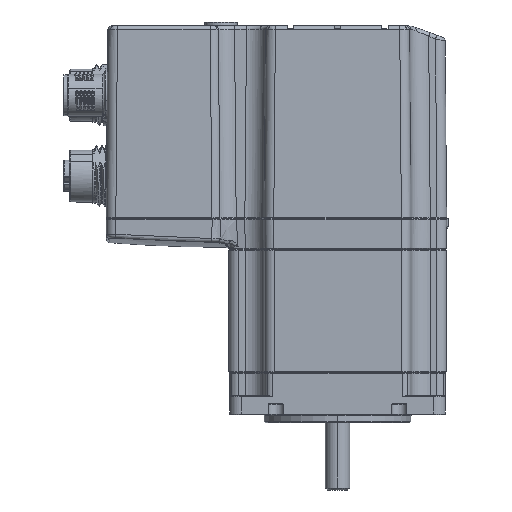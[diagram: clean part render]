
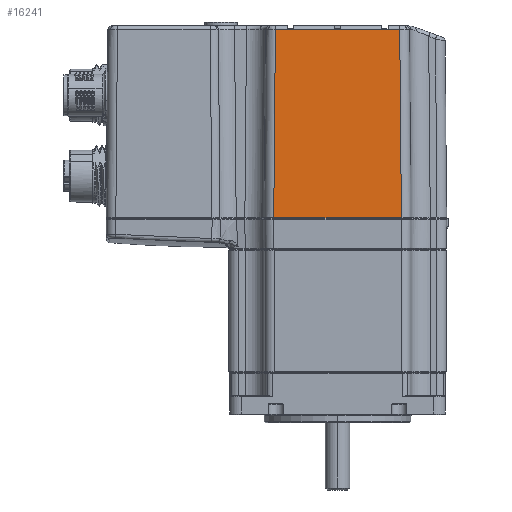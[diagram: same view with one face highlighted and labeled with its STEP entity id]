
A CAD part, left-side view. The second image highlights one B-rep face of the part: STEP entity #16241.
In plain terms, the highlighted planar face has unit normal (-1, 0, 0.009).
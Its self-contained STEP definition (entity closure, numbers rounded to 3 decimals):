
#7760 = ORIENTED_EDGE ( 'NONE', *, *, #71482, .T. ) ;
#10175 = VECTOR ( 'NONE', #88280, 1000. ) ;
#11552 = ORIENTED_EDGE ( 'NONE', *, *, #39144, .T. ) ;
#16241 = ADVANCED_FACE ( 'NONE', ( #96613 ), #39442, .T. ) ;
#26578 = LINE ( 'NONE', #77044, #50231 ) ;
#32342 = VERTEX_POINT ( 'NONE', #107970 ) ;
#33891 = LINE ( 'NONE', #52386, #10175 ) ;
#35906 = VERTEX_POINT ( 'NONE', #97408 ) ;
#38284 = DIRECTION ( 'NONE',  ( 0.009, 0., 1. ) ) ;
#38382 = DIRECTION ( 'NONE',  ( -1., 0., 0.009 ) ) ;
#38518 = CARTESIAN_POINT ( 'NONE',  ( -28.32, 19.07, 51. ) ) ;
#39144 = EDGE_CURVE ( 'NONE', #101595, #65513, #33891, .T. ) ;
#39442 = PLANE ( 'NONE',  #103018 ) ;
#46344 = DIRECTION ( 'NONE',  ( -0.009, 0.009, -1. ) ) ;
#50231 = VECTOR ( 'NONE', #85945, 1000. ) ;
#52386 = CARTESIAN_POINT ( 'NONE',  ( -27.892, 19.07, 100.009 ) ) ;
#61182 = LINE ( 'NONE', #90729, #97434 ) ;
#62720 = CARTESIAN_POINT ( 'NONE',  ( -27.892, -16.142, 100.009 ) ) ;
#65293 = ORIENTED_EDGE ( 'NONE', *, *, #65601, .T. ) ;
#65513 = VERTEX_POINT ( 'NONE', #98144 ) ;
#65601 = EDGE_CURVE ( 'NONE', #32342, #101595, #74958, .T. ) ;
#71482 = EDGE_CURVE ( 'NONE', #65513, #35906, #61182, .T. ) ;
#73220 = CARTESIAN_POINT ( 'NONE',  ( -28.317, -16.567, 51.311 ) ) ;
#74958 = LINE ( 'NONE', #73220, #95768 ) ;
#76517 = EDGE_LOOP ( 'NONE', ( #7760, #110554, #65293, #11552 ) ) ;
#77044 = CARTESIAN_POINT ( 'NONE',  ( -28.318, -16.57, 51.198 ) ) ;
#82185 = DIRECTION ( 'NONE',  ( 0.009, 0.009, 1. ) ) ;
#85945 = DIRECTION ( 'NONE',  ( 0., -1., 0. ) ) ;
#88280 = DIRECTION ( 'NONE',  ( 0., 1., 0. ) ) ;
#90729 = CARTESIAN_POINT ( 'NONE',  ( -28.32, 16.57, 50.978 ) ) ;
#95768 = VECTOR ( 'NONE', #82185, 1000. ) ;
#96613 = FACE_OUTER_BOUND ( 'NONE', #76517, .T. ) ;
#97408 = CARTESIAN_POINT ( 'NONE',  ( -28.318, 16.568, 51.198 ) ) ;
#97434 = VECTOR ( 'NONE', #46344, 1000. ) ;
#98144 = CARTESIAN_POINT ( 'NONE',  ( -27.892, 16.142, 100.009 ) ) ;
#101595 = VERTEX_POINT ( 'NONE', #62720 ) ;
#103018 = AXIS2_PLACEMENT_3D ( 'NONE', #38518, #38382, #38284 ) ;
#105777 = EDGE_CURVE ( 'NONE', #35906, #32342, #26578, .T. ) ;
#107970 = CARTESIAN_POINT ( 'NONE',  ( -28.318, -16.568, 51.198 ) ) ;
#110554 = ORIENTED_EDGE ( 'NONE', *, *, #105777, .T. ) ;
